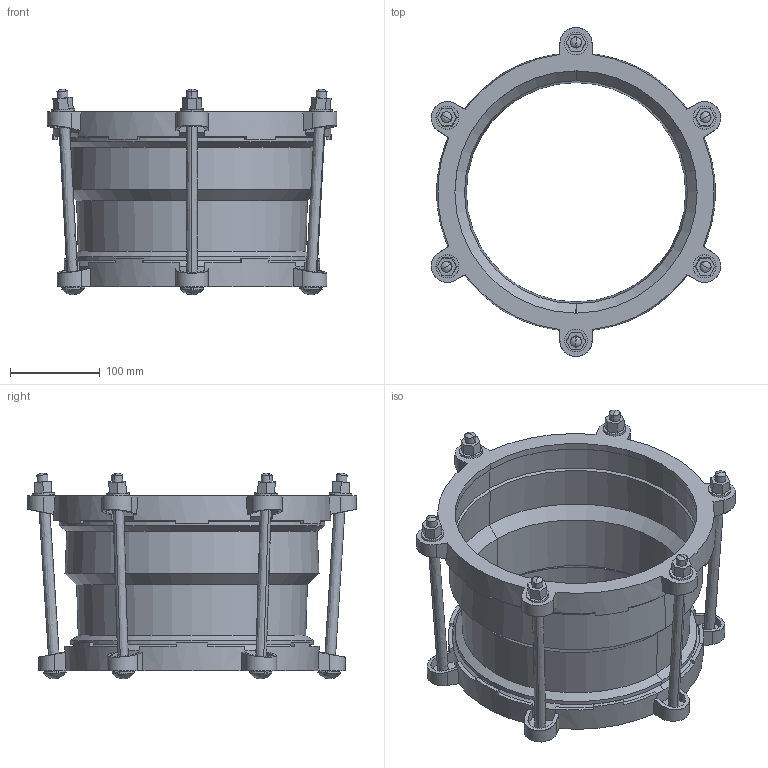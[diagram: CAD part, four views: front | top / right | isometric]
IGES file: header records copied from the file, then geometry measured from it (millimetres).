
Start section:  PTC IGES file: maxistep_244-243.igs
Global section: file name: maxistep_244-243.igs; native system: Creo Parametric by PTC Inc.; preprocessor: 2016130; author: MReader; organization: Unknown; date: 20181010.150602; units: millimetre
Bounding box: 323.09 x 367.5 x 229.53 mm (x, y, z)
Surface area: 552909.3 mm2 (no closed solid volume)
Topology: 0 solids, 0 shells, 400 faces, 2080 edges, 2056 vertices
Faces by surface type: revolution 220, bspline 180
